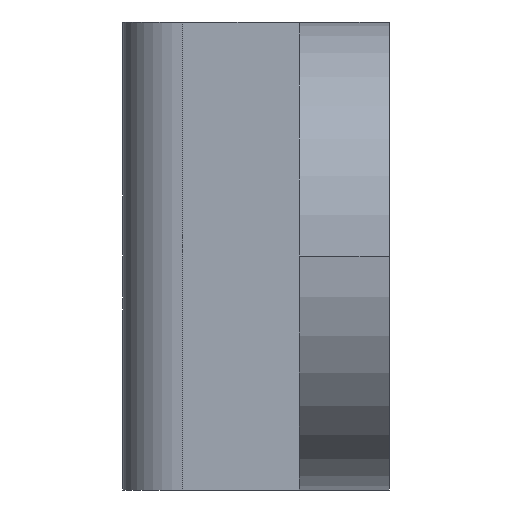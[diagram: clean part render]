
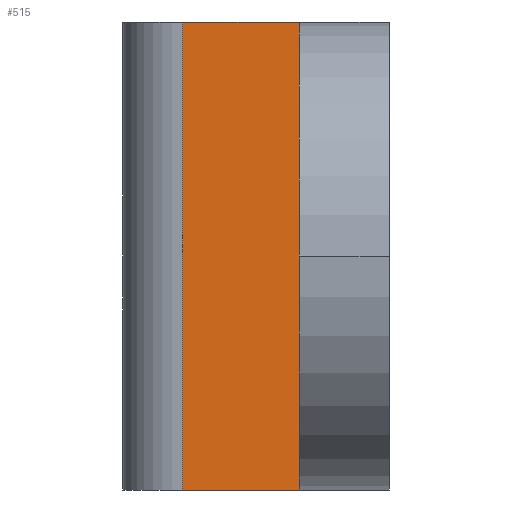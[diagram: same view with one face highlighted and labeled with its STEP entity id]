
A CAD part, left-side view. The second image highlights one B-rep face of the part: STEP entity #515.
In plain terms, the highlighted planar face has unit normal (-1, 0, 0).
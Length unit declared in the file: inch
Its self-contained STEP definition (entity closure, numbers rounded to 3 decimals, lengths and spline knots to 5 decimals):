
#5 = FACE_OUTER_BOUND ( 'NONE', #754, .T. ) ;
#66 = VECTOR ( 'NONE', #93, 39.37008 ) ;
#68 = LINE ( 'NONE', #1001, #469 ) ;
#93 = DIRECTION ( 'NONE',  ( 0., -1., 0. ) ) ;
#113 = DIRECTION ( 'NONE',  ( 0., -1., 0. ) ) ;
#264 = ORIENTED_EDGE ( 'NONE', *, *, #559, .T. ) ;
#307 = CARTESIAN_POINT ( 'NONE',  ( -0.55, 0.276, 0.3125 ) ) ;
#314 = VERTEX_POINT ( 'NONE', #451 ) ;
#317 = ORIENTED_EDGE ( 'NONE', *, *, #442, .T. ) ;
#322 = ORIENTED_EDGE ( 'NONE', *, *, #948, .F. ) ;
#333 = CARTESIAN_POINT ( 'NONE',  ( -0.55, 0.356, 0.3125 ) ) ;
#337 = CARTESIAN_POINT ( 'NONE',  ( -0.55, 0.356, 0.3125 ) ) ;
#375 = VERTEX_POINT ( 'NONE', #307 ) ;
#412 = CARTESIAN_POINT ( 'NONE',  ( -0.55, 0.12, -0.3125 ) ) ;
#415 = VERTEX_POINT ( 'NONE', #536 ) ;
#442 = EDGE_CURVE ( 'NONE', #375, #415, #651, .T. ) ;
#451 = CARTESIAN_POINT ( 'NONE',  ( -0.55, 0.12, 0.3125 ) ) ;
#469 = VECTOR ( 'NONE', #921, 39.37008 ) ;
#482 = VERTEX_POINT ( 'NONE', #412 ) ;
#515 = ADVANCED_FACE ( 'NONE', ( #5 ), #630, .F. ) ;
#536 = CARTESIAN_POINT ( 'NONE',  ( -0.55, 0.276, -0.3125 ) ) ;
#559 = EDGE_CURVE ( 'NONE', #415, #482, #747, .T. ) ;
#577 = DIRECTION ( 'NONE',  ( 0., 0., -1. ) ) ;
#630 = PLANE ( 'NONE',  #956 ) ;
#651 = LINE ( 'NONE', #947, #698 ) ;
#698 = VECTOR ( 'NONE', #787, 39.37008 ) ;
#713 = ORIENTED_EDGE ( 'NONE', *, *, #788, .F. ) ;
#745 = VECTOR ( 'NONE', #113, 39.37008 ) ;
#747 = LINE ( 'NONE', #752, #745 ) ;
#752 = CARTESIAN_POINT ( 'NONE',  ( -0.55, 0.356, -0.3125 ) ) ;
#754 = EDGE_LOOP ( 'NONE', ( #322, #317, #264, #713 ) ) ;
#787 = DIRECTION ( 'NONE',  ( 0., 0., -1. ) ) ;
#788 = EDGE_CURVE ( 'NONE', #314, #482, #68, .T. ) ;
#797 = LINE ( 'NONE', #333, #66 ) ;
#921 = DIRECTION ( 'NONE',  ( 0., 0., -1. ) ) ;
#941 = DIRECTION ( 'NONE',  ( 1., 0., 0. ) ) ;
#947 = CARTESIAN_POINT ( 'NONE',  ( -0.55, 0.276, 0.3125 ) ) ;
#948 = EDGE_CURVE ( 'NONE', #375, #314, #797, .T. ) ;
#956 = AXIS2_PLACEMENT_3D ( 'NONE', #337, #941, #577 ) ;
#1001 = CARTESIAN_POINT ( 'NONE',  ( -0.55, 0.12, 0.3125 ) ) ;
